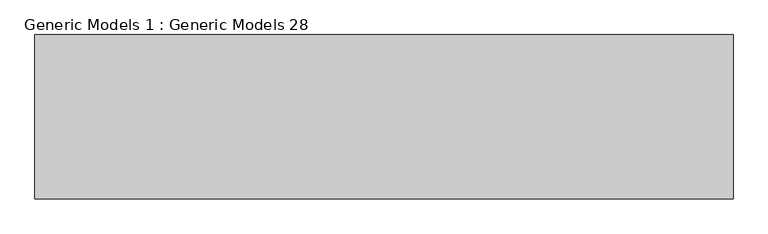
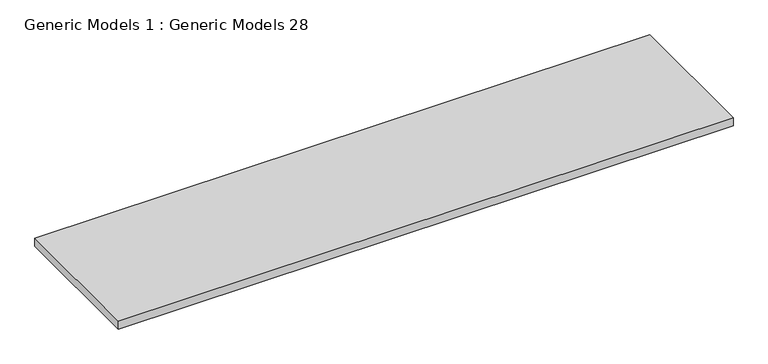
"""IFC4 building model written with IfcOpenShell, lengths in millimetres: proxy geometry, Generic Models 1 : Generic Models 28."""

from ifc_helpers import new_model, si_unit, frame, origin, place, context, project, spatial, polyline, outline, extrude, source, transform, mapped, element, save


def generic_models_1_generic_models_28_8e0be14e(model_context):
    return source(origin(), model_context, "Body", "SweptSolid", [
        extrude(outline(polyline([(-18497.2756997, 3299.6140519), (-16797.2757082, 3299.6140519), (-16797.2757082, 2899.614031), (-18497.2756997, 2899.614031), (-18497.2756997, 3299.6140519)])), frame((0.0, 0.0, 830.0), z_axis=(0.0, 0.0, 1.0), x_axis=(1.0, 0.0, 0.0)), (0.0, 0.0, 1.0), 22.3227783),
    ])


if __name__ == "__main__":
    model = new_model("IFC4")
    model_context = context("Model", 3, world=origin())
    ifc_project = project(units=[si_unit("LENGTHUNIT", "METRE", prefix="MILLI")], contexts=[model_context])
    site = spatial("IfcSite", under=ifc_project)
    building = spatial("IfcBuilding", under=site)
    placement = place(None, origin())
    generic_models_1_generic_models_28_shape = generic_models_1_generic_models_28_8e0be14e(model_context)
    element("IfcBuildingElementProxy", 1, Name="Generic Models 1 : Generic Models 28", ObjectType="Generic Models 1 : Generic Models 28", at=placement, inside=building, context=model_context, shape_type="MappedRepresentation", body=[
        mapped(generic_models_1_generic_models_28_shape, transform((0.0, 0.0, 0.0), x_axis=(1.0, 0.0, 0.0), y_axis=(0.0, 1.0, 0.0), z_axis=(0.0, 0.0, 1.0))),
    ])
    save(model, "model.ifc")
